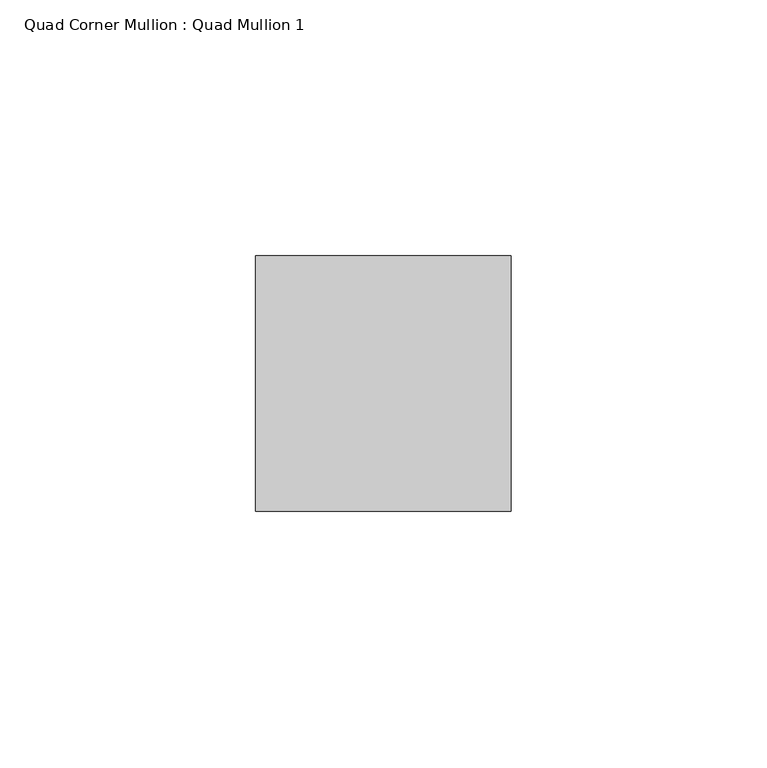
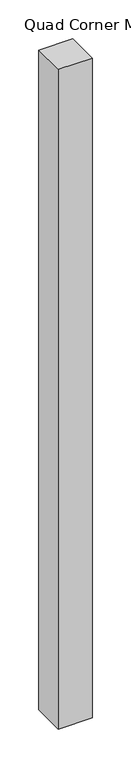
"""IFC4 building model written with IfcOpenShell, lengths in millimetres: member geometry, Quad Corner Mullion : Quad Mullion 1."""

from ifc_helpers import new_model, si_unit, frame, origin, place, context, project, spatial, polyline, outline, extrude, source, transform, mapped, element, save


def quad_corner_mullion_quad_mullion_1_31cf2301(model_context):
    return source(origin(), model_context, "Body", "SweptSolid", [
        extrude(outline(polyline([(25.0, -25.0), (-25.0, -25.0), (-25.0, 25.0), (25.0, 25.0), (25.0, -25.0)])), frame((0.0, 0.0, -1035.0), z_axis=(0.0, 0.0, 1.0), x_axis=(1.0, 0.0, 0.0)), (0.0, 0.0, 1.0), 1035.0),
    ])


if __name__ == "__main__":
    model = new_model("IFC4")
    model_context = context("Model", 3, world=origin())
    ifc_project = project(units=[si_unit("LENGTHUNIT", "METRE", prefix="MILLI")], contexts=[model_context])
    site = spatial("IfcSite", under=ifc_project)
    building = spatial("IfcBuilding", under=site)
    placement = place(None, origin())
    quad_corner_mullion_quad_mullion_1_shape = quad_corner_mullion_quad_mullion_1_31cf2301(model_context)
    element("IfcMember", 1, ObjectType="Quad Corner Mullion : Quad Mullion 1", at=placement, inside=building, context=model_context, shape_type="MappedRepresentation", body=[
        mapped(quad_corner_mullion_quad_mullion_1_shape, transform((0.0, 0.0, 0.0), x_axis=(1.0, 0.0, 0.0), y_axis=(0.0, 1.0, 0.0), z_axis=(0.0, 0.0, 1.0))),
    ])
    save(model, "model.ifc")
